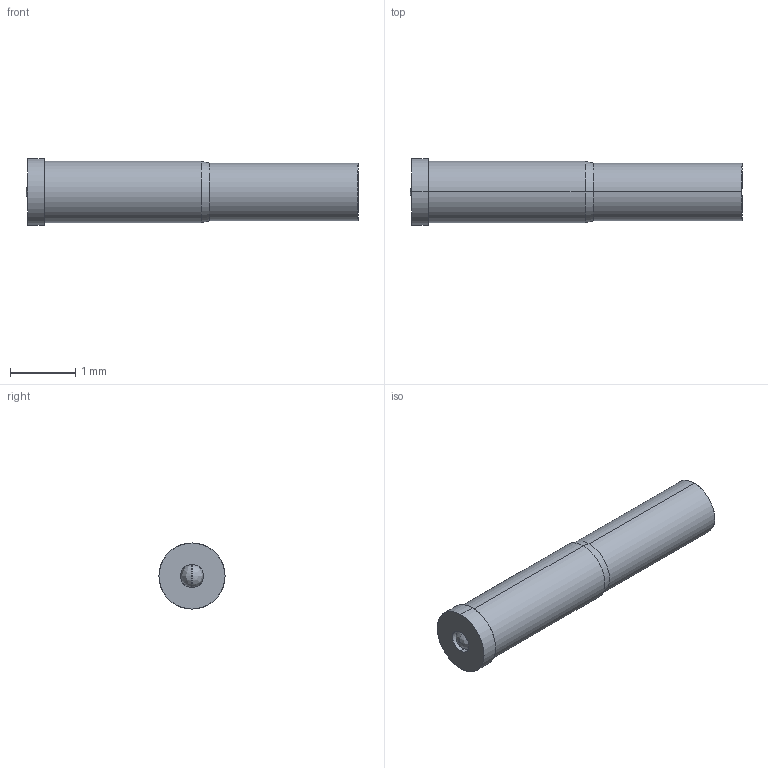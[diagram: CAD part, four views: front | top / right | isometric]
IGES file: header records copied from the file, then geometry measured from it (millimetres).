
Start section: SolidWorks IGES file using analytic representation for surfaces
Global section: file name: O:\PYLON\IGES FILES\A-S\A-S-R FULL.IGS; native system: SolidWorks 2015; preprocessor: SolidWorks 2015; author: kgolden; date: 171023.151014; units: inch
Bounding box: 5.11 x 1.02 x 1.02 mm (x, y, z)
Surface area: 18.8 mm2 (no closed solid volume)
Topology: 0 solids, 0 shells, 19 faces, 176 edges, 176 vertices
Faces by surface type: revolution 12, bspline 7
